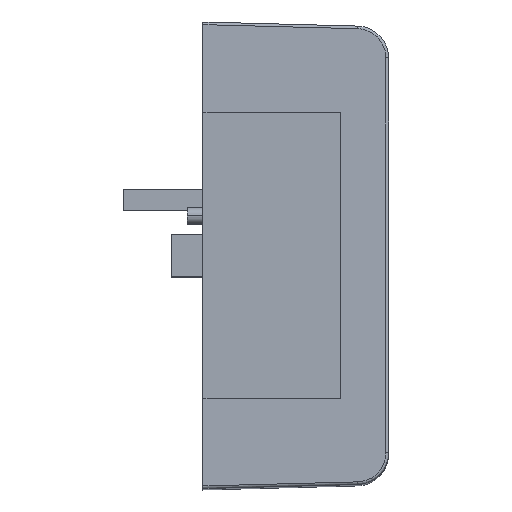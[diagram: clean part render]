
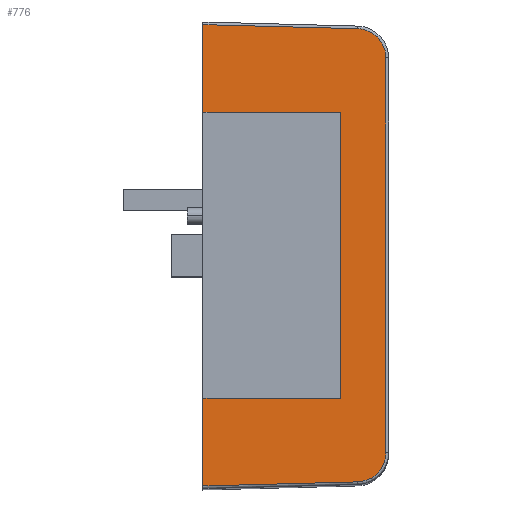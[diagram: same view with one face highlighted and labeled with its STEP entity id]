
A CAD part, top view. The second image highlights one B-rep face of the part: STEP entity #776.
In plain terms, the highlighted planar face has unit normal (0.026, 0, 1).
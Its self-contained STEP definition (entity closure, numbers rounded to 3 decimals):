
#54 = EDGE_CURVE ( 'NONE', #1525, #1818, #3033, .T. ) ;
#66 = EDGE_CURVE ( 'NONE', #1333, #1525, #206, .T. ) ;
#110 = EDGE_CURVE ( 'NONE', #1732, #1333, #1268, .T. ) ;
#111 = EDGE_CURVE ( 'NONE', #1828, #1722, #1246, .T. ) ;
#112 = EDGE_CURVE ( 'NONE', #1818, #1572, #1155, .T. ) ;
#139 = EDGE_CURVE ( 'NONE', #1572, #1573, #3032, .T. ) ;
#166 = EDGE_CURVE ( 'NONE', #1332, #1722, #1097, .T. ) ;
#172 = EDGE_CURVE ( 'NONE', #1814, #1828, #1131, .T. ) ;
#175 = EDGE_CURVE ( 'NONE', #1573, #1332, #1218, .T. ) ;
#178 = EDGE_CURVE ( 'NONE', #1732, #1814, #1138, .T. ) ;
#205 = VECTOR ( 'NONE', #1570, 1000. ) ;
#206 = LINE ( 'NONE', #1346, #205 ) ;
#350 = ORIENTED_EDGE ( 'NONE', *, *, #112, .T. ) ;
#357 = ORIENTED_EDGE ( 'NONE', *, *, #66, .T. ) ;
#382 = ORIENTED_EDGE ( 'NONE', *, *, #110, .T. ) ;
#540 = ORIENTED_EDGE ( 'NONE', *, *, #54, .T. ) ;
#551 = ORIENTED_EDGE ( 'NONE', *, *, #166, .T. ) ;
#602 = ORIENTED_EDGE ( 'NONE', *, *, #139, .T. ) ;
#604 = ORIENTED_EDGE ( 'NONE', *, *, #175, .T. ) ;
#606 = ORIENTED_EDGE ( 'NONE', *, *, #178, .F. ) ;
#621 = ORIENTED_EDGE ( 'NONE', *, *, #111, .F. ) ;
#672 = ORIENTED_EDGE ( 'NONE', *, *, #172, .F. ) ;
#736 = EDGE_LOOP ( 'NONE', ( #602, #604, #551, #621, #672, #606, #382, #357, #540, #350 ) ) ;
#776 = ADVANCED_FACE ( 'NONE', ( #956 ), #1440, .T. ) ;
#956 = FACE_OUTER_BOUND ( 'NONE', #736, .T. ) ;
#1097 = LINE ( 'NONE', #1559, #1271 ) ;
#1109 = VECTOR ( 'NONE', #1833, 1000. ) ;
#1131 = LINE ( 'NONE', #1948, #1215 ) ;
#1138 = LINE ( 'NONE', #1927, #1109 ) ;
#1155 = LINE ( 'NONE', #1670, #1211 ) ;
#1205 = VECTOR ( 'NONE', #1468, 1000. ) ;
#1211 = VECTOR ( 'NONE', #1667, 1000. ) ;
#1215 = VECTOR ( 'NONE', #1316, 1000. ) ;
#1218 = LINE ( 'NONE', #1348, #1221 ) ;
#1221 = VECTOR ( 'NONE', #1550, 1000. ) ;
#1246 = LINE ( 'NONE', #1540, #1248 ) ;
#1248 = VECTOR ( 'NONE', #1661, 1000. ) ;
#1268 = LINE ( 'NONE', #1681, #1205 ) ;
#1271 = VECTOR ( 'NONE', #1318, 1000. ) ;
#1309 = CARTESIAN_POINT ( 'NONE',  ( 17.013, 37.239, 76.096 ) ) ;
#1316 = DIRECTION ( 'NONE',  ( 0., 1., 0. ) ) ;
#1318 = DIRECTION ( 'NONE',  ( 0., -1., 0. ) ) ;
#1332 = VERTEX_POINT ( 'NONE', #2065 ) ;
#1333 = VERTEX_POINT ( 'NONE', #2063 ) ;
#1346 = CARTESIAN_POINT ( 'NONE',  ( -15.212, -43.44, 76.94 ) ) ;
#1348 = CARTESIAN_POINT ( 'NONE',  ( -17.513, 43.501, 77. ) ) ;
#1389 = CARTESIAN_POINT ( 'NONE',  ( -17.5, 44., 77. ) ) ;
#1395 = DIRECTION ( 'NONE',  ( 1., 0., -0.026 ) ) ;
#1440 = PLANE ( 'NONE',  #2892 ) ;
#1468 = DIRECTION ( 'NONE',  ( 0., -1., 0. ) ) ;
#1470 = CARTESIAN_POINT ( 'NONE',  ( 11.657, -42.737, 76.236 ) ) ;
#1514 = CARTESIAN_POINT ( 'NONE',  ( 17.013, -37.239, 76.096 ) ) ;
#1525 = VERTEX_POINT ( 'NONE', #2152 ) ;
#1540 = CARTESIAN_POINT ( 'NONE',  ( -17.461, 27., 76.999 ) ) ;
#1550 = DIRECTION ( 'NONE',  ( -0.999, 0.026, 0.026 ) ) ;
#1559 = CARTESIAN_POINT ( 'NONE',  ( -17.5, 44., 77. ) ) ;
#1570 = DIRECTION ( 'NONE',  ( 0.999, 0.026, -0.026 ) ) ;
#1572 = VERTEX_POINT ( 'NONE', #2169 ) ;
#1573 = VERTEX_POINT ( 'NONE', #2172 ) ;
#1579 = CARTESIAN_POINT ( 'NONE',  ( 17.013, 40.394, 76.096 ) ) ;
#1650 = CARTESIAN_POINT ( 'NONE',  ( 14.811, -42.654, 76.154 ) ) ;
#1660 = CARTESIAN_POINT ( 'NONE',  ( 17.013, -40.394, 76.096 ) ) ;
#1661 = DIRECTION ( 'NONE',  ( -1., 0., 0.026 ) ) ;
#1667 = DIRECTION ( 'NONE',  ( 0., 1., 0. ) ) ;
#1670 = CARTESIAN_POINT ( 'NONE',  ( 17.013, 44., 76.096 ) ) ;
#1681 = CARTESIAN_POINT ( 'NONE',  ( -17.5, 44., 77. ) ) ;
#1722 = VERTEX_POINT ( 'NONE', #2208 ) ;
#1732 = VERTEX_POINT ( 'NONE', #2210 ) ;
#1734 = DIRECTION ( 'NONE',  ( 0.026, 0., 1. ) ) ;
#1814 = VERTEX_POINT ( 'NONE', #2241 ) ;
#1818 = VERTEX_POINT ( 'NONE', #2243 ) ;
#1828 = VERTEX_POINT ( 'NONE', #2246 ) ;
#1833 = DIRECTION ( 'NONE',  ( 1., 0., -0.026 ) ) ;
#1901 = CARTESIAN_POINT ( 'NONE',  ( 11.657, 42.737, 76.236 ) ) ;
#1927 = CARTESIAN_POINT ( 'NONE',  ( -17.461, -27., 76.999 ) ) ;
#1948 = CARTESIAN_POINT ( 'NONE',  ( 8.5, 27., 76.319 ) ) ;
#1988 = CARTESIAN_POINT ( 'NONE',  ( 14.811, 42.654, 76.154 ) ) ;
#2063 = CARTESIAN_POINT ( 'NONE',  ( -17.5, -43.5, 77. ) ) ;
#2065 = CARTESIAN_POINT ( 'NONE',  ( -17.5, 43.5, 77. ) ) ;
#2152 = CARTESIAN_POINT ( 'NONE',  ( 11.657, -42.737, 76.236 ) ) ;
#2169 = CARTESIAN_POINT ( 'NONE',  ( 17.013, 37.239, 76.096 ) ) ;
#2172 = CARTESIAN_POINT ( 'NONE',  ( 11.657, 42.737, 76.236 ) ) ;
#2208 = CARTESIAN_POINT ( 'NONE',  ( -17.5, 27., 77. ) ) ;
#2210 = CARTESIAN_POINT ( 'NONE',  ( -17.5, -27., 77. ) ) ;
#2241 = CARTESIAN_POINT ( 'NONE',  ( 8.5, -27., 76.319 ) ) ;
#2243 = CARTESIAN_POINT ( 'NONE',  ( 17.013, -37.239, 76.096 ) ) ;
#2246 = CARTESIAN_POINT ( 'NONE',  ( 8.5, 27., 76.319 ) ) ;
#2892 = AXIS2_PLACEMENT_3D ( 'NONE', #1389, #1734, #1395 ) ;
#3032 =( BOUNDED_CURVE ( )  B_SPLINE_CURVE ( 3, ( #1309, #1579, #1988, #1901 ),
 .UNSPECIFIED., .F., .T. ) 
 B_SPLINE_CURVE_WITH_KNOTS ( ( 4, 4 ),
 ( 3.142, 4.686 ),
 .UNSPECIFIED. ) 
 CURVE ( )  GEOMETRIC_REPRESENTATION_ITEM ( )  RATIONAL_B_SPLINE_CURVE ( ( 1., 0.811, 0.811, 1. ) ) 
 REPRESENTATION_ITEM ( '' )  );
#3033 =( BOUNDED_CURVE ( )  B_SPLINE_CURVE ( 3, ( #1470, #1650, #1660, #1514 ),
 .UNSPECIFIED., .F., .F. ) 
 B_SPLINE_CURVE_WITH_KNOTS ( ( 4, 4 ),
 ( 1.597, 3.142 ),
 .UNSPECIFIED. ) 
 CURVE ( )  GEOMETRIC_REPRESENTATION_ITEM ( )  RATIONAL_B_SPLINE_CURVE ( ( 1., 0.811, 0.811, 1. ) ) 
 REPRESENTATION_ITEM ( '' )  );
